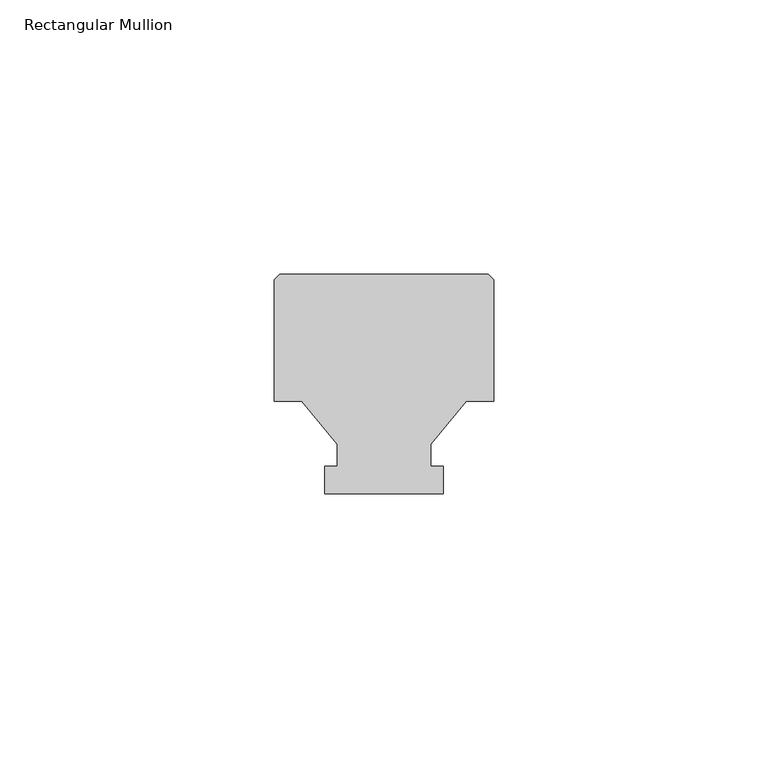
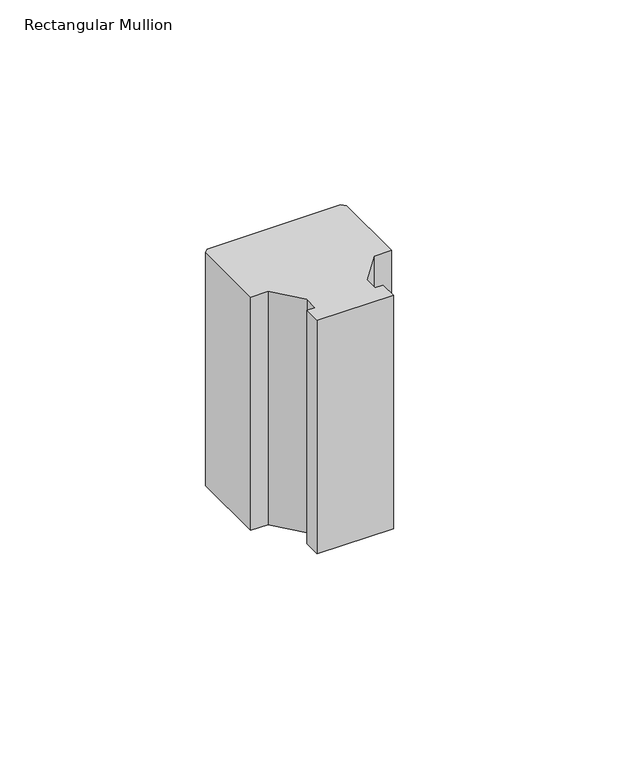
"""IFC4 building model written with IfcOpenShell, lengths in millimetres: member geometry, Rectangular Mullion : Batten_Timber_Modinex_Austratus_Grid_Fin_40x40_Ironbark."""

import ifcopenshell
import ifcopenshell.guid

model = None  # the IFC model being written
_history = None  # IfcOwnerHistory: only IFC2X3 demands one
_inside = {}  # id of a spatial element -> (the spatial element, [elements in it])
_under = {}  # id of a project, library or spatial element -> (it, [spatial elements below it])
_declared = {}  # id of a project -> (the project, [libraries it declares])
_typed = {}  # id of a type object -> (the type object, [elements of that type])
_made_of = {}  # id of a material, layer set ... -> (it, [elements and type objects made of it])


def new_model(schema):
    """Start an empty IFC model of exactly this schema.

    Asked for "IFC4X3", IfcOpenShell would pick the latest addendum, in which some entities
    have other attributes; the version numbers below select the first issue.
    IFC2X3 requires an IfcOwnerHistory on every rooted entity: one is made here for all.
    """
    global model, _history
    if schema == "IFC4X3":
        model = ifcopenshell.file(schema_version=(4, 3, 0, 0))
    else:
        model = ifcopenshell.file(schema=schema)
    _inside.clear()
    _under.clear()
    _declared.clear()
    _typed.clear()
    _made_of.clear()
    _history = None
    if model.schema == "IFC2X3":
        org = make("IfcOrganization", Name="unknown")
        user = make(
            "IfcPersonAndOrganization",
            ThePerson=make("IfcPerson", FamilyName="unknown"),
            TheOrganization=org,
        )
        app = make(
            "IfcApplication",
            ApplicationDeveloper=org,
            Version="unknown",
            ApplicationFullName="unknown",
            ApplicationIdentifier="unknown",
        )
        _history = make(
            "IfcOwnerHistory",
            OwningUser=user,
            OwningApplication=app,
            ChangeAction="ADDED",
            CreationDate=0,
        )
    return model


def make(cls, **values):
    """One entity of the class cls with the attributes given. An attribute that is None is left unset."""
    return model.create_entity(
        cls, **{name: value for name, value in values.items() if value is not None}
    )


def rooted(cls, **values):
    """An entity with a GlobalId (a new one), such as an element, a storey or a relation."""
    return make(cls, GlobalId=ifcopenshell.guid.new(), OwnerHistory=_history, **values)


def si_unit(unit_type, name, prefix=None):
    """IfcSIUnit, for example si_unit("LENGTHUNIT", "METRE", prefix="MILLI")."""
    return make("IfcSIUnit", UnitType=unit_type, Prefix=prefix, Name=name)


def assignment(units):
    """IfcUnitAssignment: the units of a project."""
    return None if units is None else make("IfcUnitAssignment", Units=units)


def point(xyz):
    """IfcCartesianPoint."""
    return None if xyz is None else make("IfcCartesianPoint", Coordinates=xyz)


def direction(xyz):
    """IfcDirection."""
    return None if xyz is None else make("IfcDirection", DirectionRatios=xyz)


def frame(location, z_axis=None, x_axis=None):
    """IfcAxis2Placement3D, a coordinate frame: its origin and axes. An axis left out is left unset."""
    return make(
        "IfcAxis2Placement3D",
        Location=point(location),
        Axis=direction(z_axis),
        RefDirection=direction(x_axis),
    )


def origin():
    """The frame at (0, 0, 0) with its axes left unset."""
    return frame((0.0, 0.0, 0.0))


def place(relative_to, where):
    """IfcLocalPlacement: puts the frame where relative to a parent placement (None: the world)."""
    return make(
        "IfcLocalPlacement", PlacementRelTo=relative_to, RelativePlacement=where
    )


def context(
    kind, dimensions, precision=None, world=None, true_north=None, identifier=None
):
    """IfcGeometricRepresentationContext, for example the 3D "Model" context."""
    return make(
        "IfcGeometricRepresentationContext",
        ContextIdentifier=identifier,
        ContextType=kind,
        CoordinateSpaceDimension=dimensions,
        Precision=precision,
        WorldCoordinateSystem=world,
        TrueNorth=true_north,
    )


def project(units=None, contexts=None):
    """IfcProject with its units and contexts."""
    return rooted(
        "IfcProject",
        Name="project",
        RepresentationContexts=contexts,
        UnitsInContext=assignment(units),
    )


def spatial(cls, under=None, at=None, **own):
    """A site, building, storey or space (cls), placed at a placement, below another one or the project."""
    s = rooted(cls, ObjectPlacement=at, **own)
    if under is not None:
        _under.setdefault(under.id(), (under, []))[1].append(s)
    return s


def polyline(points):
    """IfcPolyline through the points."""
    return make("IfcPolyline", Points=[point(p) for p in points])


def outline(outer, holes=None, kind="AREA"):
    """IfcArbitraryClosedProfileDef: a profile drawn as a closed curve; with holes, ...WithVoids."""
    if holes is None:
        return make("IfcArbitraryClosedProfileDef", ProfileType=kind, OuterCurve=outer)
    return make(
        "IfcArbitraryProfileDefWithVoids",
        ProfileType=kind,
        OuterCurve=outer,
        InnerCurves=holes,
    )


def extrude(swept, where, along, depth):
    """IfcExtrudedAreaSolid: the profile swept, set in the frame where, extruded along a direction by depth."""
    return make(
        "IfcExtrudedAreaSolid",
        SweptArea=swept,
        Position=where,
        ExtrudedDirection=direction(along),
        Depth=depth,
    )


def shape(context_of_items, identifier, shape_type, items):
    """IfcShapeRepresentation: the items that make up one representation, for example the "Body"."""
    return make(
        "IfcShapeRepresentation",
        ContextOfItems=context_of_items,
        RepresentationIdentifier=identifier,
        RepresentationType=shape_type,
        Items=items,
    )


def source(mapping_origin, context_of_items, identifier, shape_type, items):
    """IfcRepresentationMap: a shape defined once, which mapped items show again and again."""
    return make(
        "IfcRepresentationMap",
        MappingOrigin=mapping_origin,
        MappedRepresentation=shape(context_of_items, identifier, shape_type, items),
    )


def transform(
    local_origin,
    x_axis=None,
    y_axis=None,
    z_axis=None,
    scale=None,
    scale2=None,
    scale3=None,
    uniform=True,
):
    """IfcCartesianTransformationOperator3D, or its non-uniform kind. x_axis, y_axis, z_axis: its Axis1, 2, 3."""
    if uniform:
        return make(
            "IfcCartesianTransformationOperator3D",
            Axis1=direction(x_axis),
            Axis2=direction(y_axis),
            LocalOrigin=point(local_origin),
            Scale=scale,
            Axis3=direction(z_axis),
        )
    return make(
        "IfcCartesianTransformationOperator3DnonUniform",
        Axis1=direction(x_axis),
        Axis2=direction(y_axis),
        LocalOrigin=point(local_origin),
        Scale=scale,
        Axis3=direction(z_axis),
        Scale2=scale2,
        Scale3=scale3,
    )


def mapped(mapping_source, mapping_target):
    """IfcMappedItem: shows the shape of a source again, moved by a transform."""
    return make(
        "IfcMappedItem", MappingSource=mapping_source, MappingTarget=mapping_target
    )


def made_of(thing, what):
    """Note that an element or type object is made of a material, layer set ...; save() writes the relation."""
    if what is not None:
        _made_of.setdefault(what.id(), (what, []))[1].append(thing)
    return thing


def element(
    cls,
    number,
    at=None,
    inside=None,
    cuts=None,
    type_object=None,
    material=None,
    context=None,
    identifier="Body",
    shape_type=None,
    held_by="IfcProductDefinitionShape",
    body=None,
    shapes=None,
    **own,
):
    """One element of the class cls, such as IfcWall. Its Tag is "e" and its number.

    at: its placement. inside: the storey or other place that contains it. cuts: it is an
    opening in that element (IfcRelVoidsElement). A single representation is given by context,
    identifier, shape_type and body (its items); several are given by shapes. held_by: the class
    of the entity that holds the representations. save() writes the other relations.
    """
    e = rooted(cls, Tag="e%d" % number, ObjectPlacement=at, **own)
    if body is not None:
        shapes = [shape(context, identifier, shape_type, body)]
    if shapes is not None:
        e.Representation = make(held_by, Representations=shapes)
    if inside is not None:
        _inside.setdefault(inside.id(), (inside, []))[1].append(e)
    if cuts is not None:
        rooted(
            "IfcRelVoidsElement", RelatingBuildingElement=cuts, RelatedOpeningElement=e
        )
    if type_object is not None:
        _typed.setdefault(type_object.id(), (type_object, []))[1].append(e)
    return made_of(e, material)


def aggregate(whole, parts):
    """IfcRelAggregates: a whole, such as a stair, and the parts it consists of."""
    return rooted("IfcRelAggregates", RelatingObject=whole, RelatedObjects=parts)


def save(model, path):
    """Write the relations noted so far, then the file.

    IfcRelAggregates (storeys below a building ...), IfcRelContainedInSpatialStructure (elements
    in a storey), IfcRelDefinesByType, IfcRelAssociatesMaterial and IfcRelDeclares: one each for
    every whole, place, type object, material and project.
    """
    for whole, parts in _under.values():
        aggregate(whole, parts)
    for where, things in _inside.values():
        rooted(
            "IfcRelContainedInSpatialStructure",
            RelatedElements=things,
            RelatingStructure=where,
        )
    for kind, things in _typed.values():
        rooted("IfcRelDefinesByType", RelatedObjects=things, RelatingType=kind)
    for what, things in _made_of.values():
        rooted("IfcRelAssociatesMaterial", RelatedObjects=things, RelatingMaterial=what)
    for by, libraries in _declared.values():
        rooted("IfcRelDeclares", RelatingContext=by, RelatedDefinitions=libraries)
    model.write(path)


def rectangular_mullion_71afbcf9(model_context):
    return source(origin(), model_context, "Body", "SweptSolid", [
        extrude(outline(polyline([(-20.0, 16.8079815), (-20.0, 39.0), (-19.0, 40.0), (19.0, 40.0), (20.0, 39.0), (20.0, 16.8079815), (15.0, 16.8079815), (8.5, 9.0), (8.5, 5.0), (10.812195, 5.0), (10.812195, 0.0), (-10.812195, 0.0), (-10.812195, 5.0), (-8.5, 5.0), (-8.5, 9.0), (-15.0, 16.8079815), (-20.0, 16.8079815)])), frame((0.0, 0.0, -69.9999997), z_axis=(0.0, 0.0, 1.0), x_axis=(1.0, 0.0, 0.0)), (0.0, 0.0, 1.0), 69.9999997),
    ])


if __name__ == "__main__":
    model = new_model("IFC4")
    model_context = context("Model", 3, world=origin())
    ifc_project = project(units=[si_unit("LENGTHUNIT", "METRE", prefix="MILLI")], contexts=[model_context])
    site = spatial("IfcSite", under=ifc_project)
    building = spatial("IfcBuilding", under=site)
    placement = place(None, origin())
    rectangular_mullion_shape = rectangular_mullion_71afbcf9(model_context)
    element("IfcMember", 1, ObjectType="Rectangular Mullion : Batten_Timber_Modinex_Austratus_Grid_Fin_40x40_Ironbark", at=placement, inside=building, context=model_context, shape_type="MappedRepresentation", body=[
        mapped(rectangular_mullion_shape, transform((0.0, 0.0, 0.0), x_axis=(1.0, 0.0, 0.0), y_axis=(0.0, 1.0, 0.0), z_axis=(0.0, 0.0, 1.0))),
    ])
    save(model, "model.ifc")
